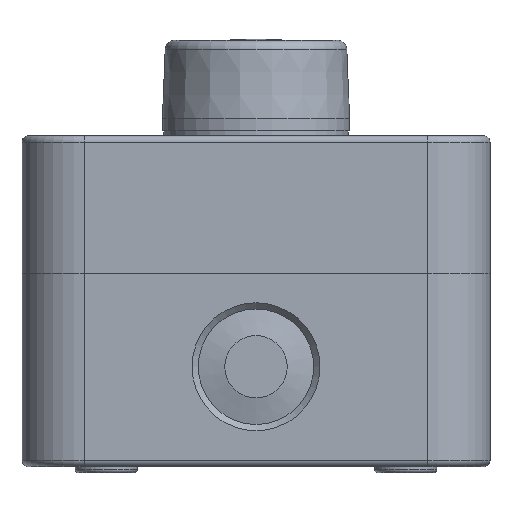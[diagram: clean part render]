
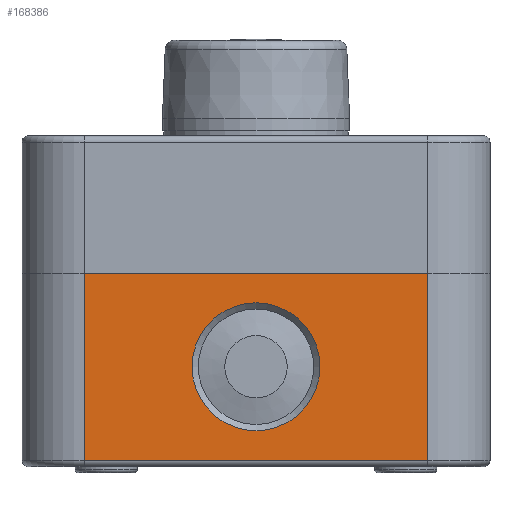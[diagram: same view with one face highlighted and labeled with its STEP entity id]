
A CAD part, front view. The second image highlights one B-rep face of the part: STEP entity #168386.
In plain terms, the highlighted planar face has unit normal (0, -1, 0).
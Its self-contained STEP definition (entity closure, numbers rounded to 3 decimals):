
#168386=ADVANCED_FACE('',(#208849,#208850),#189049,.T.);
#189049=PLANE('',#407573);
#208849=FACE_BOUND('',#209273,.T.);
#208850=FACE_BOUND('',#209274,.T.);
#209273=EDGE_LOOP('',(#292561,#292562,#292563,#292564));
#209274=EDGE_LOOP('',(#292565));
#230193=LINE('',#505959,#261089);
#230198=LINE('',#505993,#261094);
#230199=LINE('',#505995,#261095);
#230200=LINE('',#505997,#261096);
#261089=VECTOR('',#430446,1.);
#261094=VECTOR('',#430491,1.);
#261095=VECTOR('',#430494,1.);
#261096=VECTOR('',#430495,1.);
#292561=ORIENTED_EDGE('',*,*,#372417,.T.);
#292562=ORIENTED_EDGE('',*,*,#372418,.F.);
#292563=ORIENTED_EDGE('',*,*,#372419,.F.);
#292564=ORIENTED_EDGE('',*,*,#372400,.F.);
#292565=ORIENTED_EDGE('',*,*,#372420,.F.);
#359271=VERTEX_POINT('',#505958);
#359272=VERTEX_POINT('',#505960);
#359280=VERTEX_POINT('',#505992);
#359281=VERTEX_POINT('',#505996);
#359282=VERTEX_POINT('',#505999);
#372400=EDGE_CURVE('',#359271,#359272,#230193,.T.);
#372417=EDGE_CURVE('',#359271,#359280,#230198,.T.);
#372418=EDGE_CURVE('',#359281,#359280,#230199,.T.);
#372419=EDGE_CURVE('',#359272,#359281,#230200,.T.);
#372420=EDGE_CURVE('',#359282,#359282,#405824,.T.);
#405824=CIRCLE('',#407572,10.25);
#407572=AXIS2_PLACEMENT_3D('',#505998,#430496,#430497);
#407573=AXIS2_PLACEMENT_3D('',#506000,#430498,#430499);
#430446=DIRECTION('',(-1.,0.,0.));
#430491=DIRECTION('',(0.,0.,1.));
#430494=DIRECTION('',(1.,0.,0.));
#430495=DIRECTION('',(0.,0.,1.));
#430496=DIRECTION('',(0.,-1.,0.));
#430497=DIRECTION('',(0.,0.,1.));
#430498=DIRECTION('',(0.,-1.,0.));
#430499=DIRECTION('',(-1.,0.,0.));
#505958=CARTESIAN_POINT('',(27.5,-29.,-25.));
#505959=CARTESIAN_POINT('',(27.5,-29.,-25.));
#505960=CARTESIAN_POINT('',(-27.5,-29.,-25.));
#505992=CARTESIAN_POINT('',(27.5,-29.,5.));
#505993=CARTESIAN_POINT('',(27.5,-29.,-25.));
#505995=CARTESIAN_POINT('',(-27.5,-29.,5.));
#505996=CARTESIAN_POINT('',(-27.5,-29.,5.));
#505997=CARTESIAN_POINT('',(-27.5,-29.,-25.));
#505998=CARTESIAN_POINT('',(0.,-29.,-10.));
#505999=CARTESIAN_POINT('',(0.,-29.,0.25));
#506000=CARTESIAN_POINT('',(-37.5,-29.,-26.));
